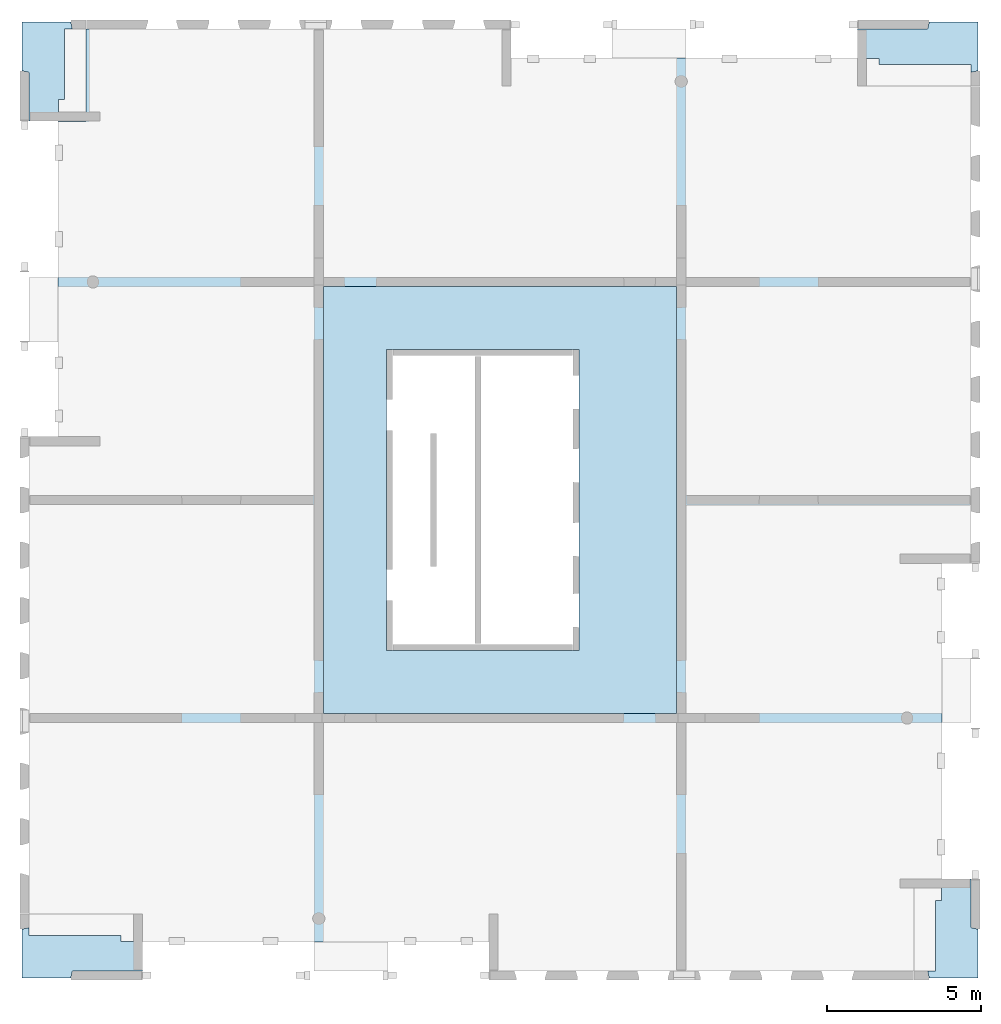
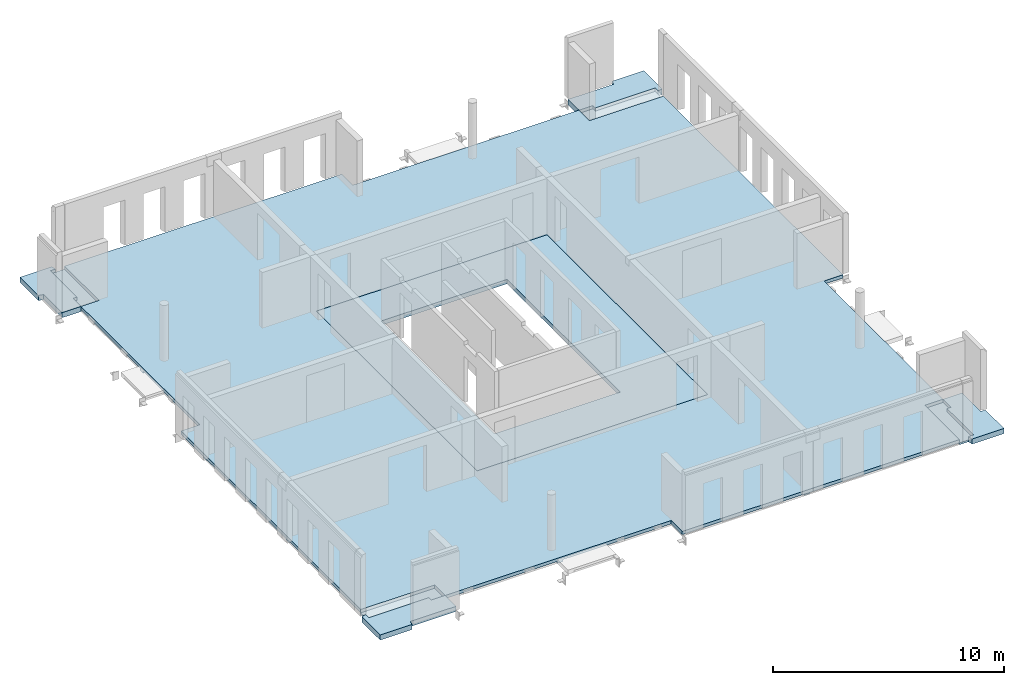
# One storey, part 6 of 6: 6 slabs.
"""IFC2X3 building model written with IfcOpenShell, lengths in millimetres."""

import ifcopenshell
import ifcopenshell.guid

model = None  # the IFC model being written
_history = None  # IfcOwnerHistory: only IFC2X3 demands one
_inside = {}  # id of a spatial element -> (the spatial element, [elements in it])
_under = {}  # id of a project, library or spatial element -> (it, [spatial elements below it])
_declared = {}  # id of a project -> (the project, [libraries it declares])
_typed = {}  # id of a type object -> (the type object, [elements of that type])
_made_of = {}  # id of a material, layer set ... -> (it, [elements and type objects made of it])


def new_model(schema):
    """Start an empty IFC model of exactly this schema.

    Asked for "IFC4X3", IfcOpenShell would pick the latest addendum, in which some entities
    have other attributes; the version numbers below select the first issue.
    IFC2X3 requires an IfcOwnerHistory on every rooted entity: one is made here for all.
    """
    global model, _history
    if schema == "IFC4X3":
        model = ifcopenshell.file(schema_version=(4, 3, 0, 0))
    else:
        model = ifcopenshell.file(schema=schema)
    _inside.clear()
    _under.clear()
    _declared.clear()
    _typed.clear()
    _made_of.clear()
    _history = None
    if model.schema == "IFC2X3":
        org = make("IfcOrganization", Name="unknown")
        user = make(
            "IfcPersonAndOrganization",
            ThePerson=make("IfcPerson", FamilyName="unknown"),
            TheOrganization=org,
        )
        app = make(
            "IfcApplication",
            ApplicationDeveloper=org,
            Version="unknown",
            ApplicationFullName="unknown",
            ApplicationIdentifier="unknown",
        )
        _history = make(
            "IfcOwnerHistory",
            OwningUser=user,
            OwningApplication=app,
            ChangeAction="ADDED",
            CreationDate=0,
        )
    return model


def make(cls, **values):
    """One entity of the class cls with the attributes given. An attribute that is None is left unset."""
    return model.create_entity(
        cls, **{name: value for name, value in values.items() if value is not None}
    )


def entity(cls, *values):
    """Any entity or typed value of the class cls, its attributes in the order of the schema. None: left unset."""
    e = model.create_entity(cls)
    for i, value in enumerate(values):
        if value is not None:
            e[i] = value
    return e


def rooted(cls, **values):
    """An entity with a GlobalId (a new one), such as an element, a storey or a relation."""
    return make(cls, GlobalId=ifcopenshell.guid.new(), OwnerHistory=_history, **values)


def si_unit(unit_type, name, prefix=None):
    """IfcSIUnit, for example si_unit("LENGTHUNIT", "METRE", prefix="MILLI")."""
    return make("IfcSIUnit", UnitType=unit_type, Prefix=prefix, Name=name)


def converted_unit(unit_type, name, factor, base, dimensions=None, offset=None):
    """IfcConversionBasedUnit, such as the inch: factor (a typed value) times the base unit."""
    return make(
        "IfcConversionBasedUnit"
        if offset is None
        else "IfcConversionBasedUnitWithOffset",
        ConversionOffset=offset,
        Dimensions=None
        if dimensions is None
        else entity("IfcDimensionalExponents", *dimensions),
        UnitType=unit_type,
        Name=name,
        ConversionFactor=make(
            "IfcMeasureWithUnit", ValueComponent=factor, UnitComponent=base
        ),
    )


def derived_unit(unit_type, elements):
    """IfcDerivedUnit: a product of units, each with its exponent."""
    return make(
        "IfcDerivedUnit",
        Elements=[
            make("IfcDerivedUnitElement", Unit=unit, Exponent=power)
            for unit, power in elements
        ],
        UnitType=unit_type,
    )


def assignment(units):
    """IfcUnitAssignment: the units of a project."""
    return None if units is None else make("IfcUnitAssignment", Units=units)


def point(xyz):
    """IfcCartesianPoint."""
    return None if xyz is None else make("IfcCartesianPoint", Coordinates=xyz)


def direction(xyz):
    """IfcDirection."""
    return None if xyz is None else make("IfcDirection", DirectionRatios=xyz)


def frame(location, z_axis=None, x_axis=None):
    """IfcAxis2Placement3D, a coordinate frame: its origin and axes. An axis left out is left unset."""
    return make(
        "IfcAxis2Placement3D",
        Location=point(location),
        Axis=direction(z_axis),
        RefDirection=direction(x_axis),
    )


def origin():
    """The frame at (0, 0, 0) with its axes left unset."""
    return frame((0.0, 0.0, 0.0))


def place(relative_to, where):
    """IfcLocalPlacement: puts the frame where relative to a parent placement (None: the world)."""
    return make(
        "IfcLocalPlacement", PlacementRelTo=relative_to, RelativePlacement=where
    )


def context(
    kind, dimensions, precision=None, world=None, true_north=None, identifier=None
):
    """IfcGeometricRepresentationContext, for example the 3D "Model" context."""
    return make(
        "IfcGeometricRepresentationContext",
        ContextIdentifier=identifier,
        ContextType=kind,
        CoordinateSpaceDimension=dimensions,
        Precision=precision,
        WorldCoordinateSystem=world,
        TrueNorth=true_north,
    )


def subcontext(parent, identifier, kind, view, scale=None):
    """IfcGeometricRepresentationSubContext, for example "Body" below "Model"."""
    return make(
        "IfcGeometricRepresentationSubContext",
        ContextIdentifier=identifier,
        ContextType=kind,
        ParentContext=parent,
        TargetScale=scale,
        TargetView=view,
    )


def project(units=None, contexts=None):
    """IfcProject with its units and contexts."""
    return rooted(
        "IfcProject",
        Name="project",
        RepresentationContexts=contexts,
        UnitsInContext=assignment(units),
    )


def spatial(cls, under=None, at=None, **own):
    """A site, building, storey or space (cls), placed at a placement, below another one or the project."""
    s = rooted(cls, ObjectPlacement=at, **own)
    if under is not None:
        _under.setdefault(under.id(), (under, []))[1].append(s)
    return s


def faces_of(points, faces, orient=None, outer=None):
    """IfcFace entities. A face is a list of loops; a loop is a list of indices into points, from 0.

    orient and outer hold one flag for each loop. By default every Orientation is true, the
    first loop of a face is its IfcFaceOuterBound and the others are IfcFaceBound.
    """
    made = []
    for i, loops in enumerate(faces):
        bounds = []
        for j, loop in enumerate(loops):
            is_outer = j == 0 if outer is None else outer[i][j]
            bounds.append(
                make(
                    "IfcFaceOuterBound" if is_outer else "IfcFaceBound",
                    Bound=make("IfcPolyLoop", Polygon=[points[k] for k in loop]),
                    Orientation=True if orient is None else orient[i][j],
                )
            )
        made.append(make("IfcFace", Bounds=bounds))
    return made


def faceted_brep(points, faces, orient=None, outer=None, voids=None):
    """IfcFacetedBrep: a solid bounded by flat faces; with voids (closed shells), ...WithVoids."""
    shared = [point(p) for p in points]
    hull = make("IfcClosedShell", CfsFaces=faces_of(shared, faces, orient, outer))
    if voids is None:
        return make("IfcFacetedBrep", Outer=hull)
    return make(
        "IfcFacetedBrepWithVoids",
        Outer=hull,
        Voids=[
            make(cls, CfsFaces=faces_of(shared, fs, o, b)) for cls, fs, o, b in voids
        ],
    )


def shape(context_of_items, identifier, shape_type, items):
    """IfcShapeRepresentation: the items that make up one representation, for example the "Body"."""
    return make(
        "IfcShapeRepresentation",
        ContextOfItems=context_of_items,
        RepresentationIdentifier=identifier,
        RepresentationType=shape_type,
        Items=items,
    )


def material(Name=None, Category=None):
    """IfcMaterial."""
    return make("IfcMaterial", Name=Name, Category=Category)


def made_of(thing, what):
    """Note that an element or type object is made of a material, layer set ...; save() writes the relation."""
    if what is not None:
        _made_of.setdefault(what.id(), (what, []))[1].append(thing)
    return thing


def element(
    cls,
    number,
    at=None,
    inside=None,
    cuts=None,
    type_object=None,
    material=None,
    context=None,
    identifier="Body",
    shape_type=None,
    held_by="IfcProductDefinitionShape",
    body=None,
    shapes=None,
    **own,
):
    """One element of the class cls, such as IfcWall. Its Tag is "e" and its number.

    at: its placement. inside: the storey or other place that contains it. cuts: it is an
    opening in that element (IfcRelVoidsElement). A single representation is given by context,
    identifier, shape_type and body (its items); several are given by shapes. held_by: the class
    of the entity that holds the representations. save() writes the other relations.
    """
    e = rooted(cls, Tag="e%d" % number, ObjectPlacement=at, **own)
    if body is not None:
        shapes = [shape(context, identifier, shape_type, body)]
    if shapes is not None:
        e.Representation = make(held_by, Representations=shapes)
    if inside is not None:
        _inside.setdefault(inside.id(), (inside, []))[1].append(e)
    if cuts is not None:
        rooted(
            "IfcRelVoidsElement", RelatingBuildingElement=cuts, RelatedOpeningElement=e
        )
    if type_object is not None:
        _typed.setdefault(type_object.id(), (type_object, []))[1].append(e)
    return made_of(e, material)


def aggregate(whole, parts):
    """IfcRelAggregates: a whole, such as a stair, and the parts it consists of."""
    return rooted("IfcRelAggregates", RelatingObject=whole, RelatedObjects=parts)


def save(model, path):
    """Write the relations noted so far, then the file.

    IfcRelAggregates (storeys below a building ...), IfcRelContainedInSpatialStructure (elements
    in a storey), IfcRelDefinesByType, IfcRelAssociatesMaterial and IfcRelDeclares: one each for
    every whole, place, type object, material and project.
    """
    for whole, parts in _under.values():
        aggregate(whole, parts)
    for where, things in _inside.values():
        rooted(
            "IfcRelContainedInSpatialStructure",
            RelatedElements=things,
            RelatingStructure=where,
        )
    for kind, things in _typed.values():
        rooted("IfcRelDefinesByType", RelatedObjects=things, RelatingType=kind)
    for what, things in _made_of.values():
        rooted("IfcRelAssociatesMaterial", RelatedObjects=things, RelatingMaterial=what)
    for by, libraries in _declared.values():
        rooted("IfcRelDeclares", RelatingContext=by, RelatedDefinitions=libraries)
    model.write(path)


model = new_model("IFC2X3")

# Units and contexts
model_context = context("Model", 3, precision=0.01, world=origin(), true_north=direction((6.12303176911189e-17, 1.0)))
body_context = subcontext(model_context, "Body", "Model", "MODEL_VIEW")
ifc_project = project(units=[si_unit("LENGTHUNIT", "METRE", prefix="MILLI"), si_unit("AREAUNIT", "SQUARE_METRE"), si_unit("VOLUMEUNIT", "CUBIC_METRE"), converted_unit("PLANEANGLEUNIT", "DEGREE", entity("IfcRatioMeasure", 0.0174532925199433), si_unit("PLANEANGLEUNIT", "RADIAN"), dimensions=[0, 0, 0, 0, 0, 0, 0]), si_unit("MASSUNIT", "GRAM", prefix="KILO"), derived_unit("MASSDENSITYUNIT", [(si_unit("MASSUNIT", "GRAM", prefix="KILO"), 1), (si_unit("LENGTHUNIT", "METRE"), -3)]), si_unit("TIMEUNIT", "SECOND"), si_unit("FREQUENCYUNIT", "HERTZ"), si_unit("THERMODYNAMICTEMPERATUREUNIT", "DEGREE_CELSIUS"), derived_unit("THERMALTRANSMITTANCEUNIT", [(si_unit("MASSUNIT", "GRAM", prefix="KILO"), 1), (si_unit("THERMODYNAMICTEMPERATUREUNIT", "KELVIN"), -1), (si_unit("TIMEUNIT", "SECOND"), -3)]), derived_unit("VOLUMETRICFLOWRATEUNIT", [(si_unit("LENGTHUNIT", "METRE"), 3), (si_unit("TIMEUNIT", "SECOND"), -1)]), si_unit("ELECTRICCURRENTUNIT", "AMPERE"), si_unit("ELECTRICVOLTAGEUNIT", "VOLT"), si_unit("POWERUNIT", "WATT"), si_unit("FORCEUNIT", "NEWTON", prefix="KILO"), si_unit("ILLUMINANCEUNIT", "LUX"), si_unit("LUMINOUSFLUXUNIT", "LUMEN"), si_unit("LUMINOUSINTENSITYUNIT", "CANDELA"), derived_unit("USERDEFINED", [(si_unit("MASSUNIT", "GRAM", prefix="KILO"), -1), (si_unit("LENGTHUNIT", "METRE"), -2), (si_unit("TIMEUNIT", "SECOND"), 3), (si_unit("LUMINOUSFLUXUNIT", "LUMEN"), 1)]), derived_unit("LINEARVELOCITYUNIT", [(si_unit("LENGTHUNIT", "METRE"), 1), (si_unit("TIMEUNIT", "SECOND"), -1)]), si_unit("PRESSUREUNIT", "PASCAL"), derived_unit("USERDEFINED", [(si_unit("LENGTHUNIT", "METRE"), -2), (si_unit("MASSUNIT", "GRAM", prefix="KILO"), 1), (si_unit("TIMEUNIT", "SECOND"), -2)])], contexts=[model_context])

# Site, building, storey
site_placement = place(None, origin())
site = spatial("IfcSite", under=ifc_project, at=site_placement, Name="Default", CompositionType="ELEMENT")
building_placement = place(site_placement, origin())
building = spatial("IfcBuilding", under=site, at=building_placement, Name="niet gebruiken", CompositionType="ELEMENT")
storey_placement = place(building_placement, frame((0.0, 0.0, 161820.0)))
storey = spatial("IfcBuildingStorey", under=building, at=storey_placement, Name="52 tweeënvijftigste verdieping", CompositionType="ELEMENT", Elevation=161820.0)

# Slabs
slab_1_placement = place(storey_placement, origin())
element("IfcSlab", 1, at=slab_1_placement, inside=storey, Name="Floor:NLRS_23.22_FL_beton prefab d=270 3D element_gen", ObjectType="Floor:NLRS_23.22_FL_beton prefab d=270 3D element_gen", PredefinedType="LANDING", context=body_context, shape_type="Brep", body=[
    faceted_brep([(126420.0, 29840.0, -360.0), (126420.0, 31425.376175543, -360.0), (126187.0, 31472.8526645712, -360.0), (126187.0, 33063.0, -360.0), (127777.147335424, 33063.0, -360.0), (127824.623824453, 32830.0, -360.0), (128270.0, 32830.0, -360.0), (128270.0, 29840.0, -360.0), (126420.0, 31425.376175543, -90.0), (126420.0, 29840.0, -90.0), (127370.0, 29840.0, -90.0), (127370.0, 30540.0, -90.0), (127570.0, 30540.0, -90.0), (127570.0, 32830.0, -90.0), (127824.623824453, 32830.0, -90.0), (127777.147335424, 33063.0, -90.0), (126187.0, 33063.0, -90.0), (126187.0, 31472.8526645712, -90.0), (127824.623824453, 32830.0, -260.0), (128270.0, 32830.0, -260.0), (128270.0, 29840.0, -260.0), (127370.0, 29840.0, -260.0), (127370.0, 30540.0, -260.0), (127570.0, 32830.0, -260.0), (127570.0, 30540.0, -260.0)], [[[0, 1, 2, 3, 4, 5, 6, 7]], [[8, 9, 10, 11, 12, 13, 14, 15, 16, 17]], [[1, 0, 9, 8]], [[2, 1, 8, 17]], [[3, 2, 17, 16]], [[4, 3, 16, 15]], [[5, 4, 15, 14, 18]], [[6, 5, 18, 19]], [[7, 6, 19, 20]], [[0, 7, 20, 21, 10, 9]], [[22, 21, 20, 19, 18, 23, 24]], [[13, 23, 18, 14]], [[21, 22, 11, 10]], [[22, 24, 12, 11]], [[24, 23, 13, 12]]]),
])
slab_2_placement = place(storey_placement, origin())
element("IfcSlab", 2, at=slab_2_placement, inside=storey, Name="Floor:NLRS_23.22_FL_beton prefab d=270 3D element_gen", ObjectType="Floor:NLRS_23.22_FL_beton prefab d=270 3D element_gen", PredefinedType="LANDING", context=body_context, shape_type="Brep", body=[
    faceted_brep([(157080.0, 5160.0, -360.0), (157080.0, 3574.62382445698, -360.0), (157313.0, 3527.14733542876, -360.0), (157313.0, 1937.0, -360.0), (155722.852664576, 1937.0, -360.0), (155675.376175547, 2170.0, -360.0), (155230.0, 2170.0, -360.0), (155230.0, 5160.0, -360.0), (157080.0, 3574.62382445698, -90.0), (157080.0, 5160.0, -90.0), (156130.0, 5160.0, -90.0), (156130.0, 4460.0, -90.0), (155930.0, 4460.0, -90.0), (155930.0, 2170.0, -90.0), (155675.376175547, 2170.0, -90.0), (155722.852664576, 1937.0, -90.0), (157313.0, 1937.0, -90.0), (157313.0, 3527.14733542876, -90.0), (155675.376175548, 2170.0, -260.0), (155230.0, 2170.0, -260.0), (155230.0, 5160.0, -260.0), (156130.0, 5160.0, -260.0), (156130.0, 4460.0, -260.0), (155930.0, 2170.0, -260.0), (155930.0, 4460.0, -260.0)], [[[0, 1, 2, 3, 4, 5, 6, 7]], [[8, 9, 10, 11, 12, 13, 14, 15, 16, 17]], [[1, 0, 9, 8]], [[2, 1, 8, 17]], [[3, 2, 17, 16]], [[4, 3, 16, 15]], [[5, 4, 15, 14, 18]], [[6, 5, 18, 19]], [[7, 6, 19, 20]], [[0, 7, 20, 21, 10, 9]], [[22, 21, 20, 19, 18, 23, 24]], [[13, 23, 18, 14]], [[21, 22, 11, 10]], [[22, 24, 12, 11]], [[24, 23, 13, 12]]]),
])
slab_3_placement = place(storey_placement, origin())
element("IfcSlab", 3, at=slab_3_placement, inside=storey, Name="Floor:NLRS_23.22_FL_beton prefab d=270 3D element_gen", ObjectType="Floor:NLRS_23.22_FL_beton prefab d=270 3D element_gen", PredefinedType="LANDING", context=body_context, shape_type="Brep", body=[
    faceted_brep([(126420.0, 4020.0, -360.0), (130110.0, 4020.0, -360.0), (130110.0, 2170.0, -360.0), (127824.62382445, 2170.0, -360.0), (127777.147335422, 1937.0, -360.0), (126187.0, 1937.0, -360.0), (126187.0, 3527.14733543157, -360.0), (126420.0, 3574.62382445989, -360.0), (127824.62382445, 2170.0, -90.0), (130110.0, 2170.0, -90.0), (130110.0, 3120.0, -90.0), (129410.0, 3120.0, -90.0), (129410.0, 3320.0, -90.0), (126420.0, 3320.0, -90.0), (126420.0, 3574.62382445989, -90.0), (126187.0, 3527.14733543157, -90.0), (126187.0, 1937.0, -90.0), (127777.147335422, 1937.0, -90.0), (126420.0, 4020.0, -260.0), (130110.0, 4020.0, -260.0), (130110.0, 3120.0, -260.0), (126420.0, 3574.62382446, -260.0), (129410.0, 3120.0, -260.0), (126420.0, 3320.0, -260.0), (129410.0, 3320.0, -260.0)], [[[0, 1, 2, 3, 4, 5, 6, 7]], [[8, 9, 10, 11, 12, 13, 14, 15, 16, 17]], [[1, 0, 18, 19]], [[2, 1, 19, 20, 10, 9]], [[3, 2, 9, 8]], [[4, 3, 8, 17]], [[5, 4, 17, 16]], [[6, 5, 16, 15]], [[7, 6, 15, 14, 21]], [[0, 7, 21, 18]], [[22, 20, 19, 18, 21, 23, 24]], [[20, 22, 11, 10]], [[22, 24, 12, 11]], [[24, 23, 13, 12]], [[13, 23, 21, 14]]]),
])
slab_4_placement = place(storey_placement, origin())
element("IfcSlab", 4, at=slab_4_placement, inside=storey, Name="Floor:NLRS_23.22_FL_beton prefab d=270 3D element_gen", ObjectType="Floor:NLRS_23.22_FL_beton prefab d=270 3D element_gen", PredefinedType="LANDING", context=body_context, shape_type="Brep", body=[
    faceted_brep([(157080.0, 30980.0, -360.0), (153390.0, 30980.0, -360.0), (153390.0, 32830.0, -360.0), (155675.376175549, 32830.0, -360.0), (155722.852664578, 33063.0, -360.0), (157313.0, 33063.0, -360.0), (157313.0, 31472.8526645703, -360.0), (157080.0, 31425.376175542, -360.0), (155675.376175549, 32830.0, -90.0), (153390.0, 32830.0, -90.0), (153390.0, 31880.0, -90.0), (154090.0, 31880.0, -90.0), (154090.0, 31680.0, -90.0), (157080.0, 31680.0, -90.0), (157080.0, 31425.376175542, -90.0), (157313.0, 31472.8526645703, -90.0), (157313.0, 33063.0, -90.0), (155722.852664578, 33063.0, -90.0), (157080.0, 30980.0, -260.0), (153390.0, 30980.0, -260.0), (153390.0, 31880.0, -260.0), (157080.0, 31425.3761755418, -260.0), (154090.0, 31880.0, -260.0), (157080.0, 31680.0, -260.0), (154090.0, 31680.0, -260.0)], [[[0, 1, 2, 3, 4, 5, 6, 7]], [[8, 9, 10, 11, 12, 13, 14, 15, 16, 17]], [[1, 0, 18, 19]], [[2, 1, 19, 20, 10, 9]], [[3, 2, 9, 8]], [[4, 3, 8, 17]], [[5, 4, 17, 16]], [[6, 5, 16, 15]], [[7, 6, 15, 14, 21]], [[0, 7, 21, 18]], [[22, 20, 19, 18, 21, 23, 24]], [[20, 22, 11, 10]], [[22, 24, 12, 11]], [[24, 23, 13, 12]], [[13, 23, 21, 14]]]),
])
slab_5_placement = place(storey_placement, origin())
element("IfcSlab", 5, at=slab_5_placement, inside=storey, Name="Floor:NLRS_23.21_FL_vloer=230_gen", ObjectType="Floor:NLRS_23.21_FL_vloer=230_gen", PredefinedType="FLOOR", context=body_context, shape_type="Brep", body=[
    faceted_brep([(144330.0, 22400.0, -320.0), (138050.0, 22400.0, -320.0), (138050.0, 12600.0, -320.0), (144330.0, 12600.0, -320.0), (138040.0, 22410.0, -320.0), (144340.0, 22410.0, -320.0), (144340.0, 12590.0, -320.0), (138040.0, 12590.0, -320.0), (138050.0, 22400.0, -90.0), (144330.0, 22400.0, -90.0), (144330.0, 12600.0, -90.0), (138050.0, 12600.0, -90.0), (147500.0, 10550.0, -90.0), (147500.0, 24450.0, -90.0), (136000.0, 24450.0, -90.0), (136000.0, 10550.0, -90.0), (147500.0, 10550.0, -260.0), (147500.0, 24450.0, -260.0), (136000.0, 10550.0, -260.0), (136000.0, 24450.0, -260.0), (144340.0, 12590.0, -260.0), (144340.0, 22410.0, -260.0), (138040.0, 22410.0, -260.0), (138040.0, 12590.0, -260.0)], [[[0, 1, 2, 3], [4, 5, 6, 7]], [[8, 9, 10, 11], [12, 13, 14, 15]], [[13, 12, 16, 17]], [[12, 15, 18, 16]], [[15, 14, 19, 18]], [[14, 13, 17, 19]], [[1, 0, 9, 8]], [[2, 1, 8, 11]], [[3, 2, 11, 10]], [[0, 3, 10, 9]], [[20, 21, 22, 23], [17, 16, 18, 19]], [[22, 21, 5, 4]], [[23, 22, 4, 7]], [[20, 23, 7, 6]], [[21, 20, 6, 5]]], outer=[[False, True], [False, True], [True], [True], [True], [True], [True], [True], [True], [True], [False, True], [True], [True], [True], [True]]),
])
ifc_material = material(Name="NLRS_f2_beton ihwg")
slab_6_placement = place(storey_placement, origin())
element("IfcSlab", 6, at=slab_6_placement, inside=storey, material=ifc_material, Name="Floor:NLRS_23.21_FL_vloer d=270_gen", ObjectType="Floor:NLRS_23.21_FL_vloer d=270_gen", PredefinedType="FLOOR", context=body_context, shape_type="Brep", body=[
    faceted_brep([(147500.0, 24450.0, -360.0), (136000.0, 24450.0, -360.0), (136000.0, 10550.0, -360.0), (147500.0, 10550.0, -360.0), (135710.0, 3115.0, -360.0), (135710.0, 10260.0, -360.0), (126450.0, 10260.0, -360.0), (126450.0, 10540.0, -360.0), (135710.0, 10540.0, -360.0), (135710.0, 17360.0, -360.0), (126450.0, 17360.0, -360.0), (126450.0, 17640.0, -360.0), (135710.0, 17640.0, -360.0), (135710.0, 24460.0, -360.0), (127365.0, 24460.0, -360.0), (127365.0, 24740.0, -360.0), (135710.0, 24740.0, -360.0), (135710.0, 32800.0, -360.0), (135990.0, 32800.0, -360.0), (135990.0, 24740.0, -360.0), (147510.0, 24740.0, -360.0), (147510.0, 31885.0, -360.0), (147790.0, 31885.0, -360.0), (147790.0, 24740.0, -360.0), (157050.0, 24740.0, -360.0), (157050.0, 24460.0, -360.0), (147790.0, 24460.0, -360.0), (147790.0, 17640.0, -360.0), (157050.0, 17640.0, -360.0), (157050.0, 17340.0, -360.0), (147790.0, 17340.0, -360.0), (147790.0, 10540.0, -360.0), (156135.0, 10540.0, -360.0), (156135.0, 10260.0, -360.0), (147790.0, 10260.0, -360.0), (147790.0, 2200.0, -360.0), (147510.0, 2200.0, -360.0), (147510.0, 10260.0, -360.0), (135990.0, 10260.0, -360.0), (135990.0, 3115.0, -360.0), (142110.0, 31885.0, -90.0), (142110.0, 32830.0, -90.0), (128270.0, 32830.0, -90.0), (128270.0, 29840.0, -90.0), (127370.0, 29840.0, -90.0), (127365.0, 29840.0, -90.0), (127365.0, 19560.0, -90.0), (126420.0, 19560.0, -90.0), (126420.0, 4020.0, -90.0), (130110.0, 4020.0, -90.0), (130110.0, 3120.0, -90.0), (130110.0, 3115.0, -90.0), (141390.0, 3115.0, -90.0), (141390.0, 2170.0, -90.0), (155230.0, 2170.0, -90.0), (155230.0, 5160.0, -90.0), (156130.0, 5160.0, -90.0), (156135.0, 5160.0, -90.0), (156135.0, 15440.0, -90.0), (157080.0, 15440.0, -90.0), (157080.0, 30980.0, -90.0), (153390.0, 30980.0, -90.0), (153390.0, 31880.0, -90.0), (153390.0, 31885.0, -90.0), (136000.0, 24450.0, -90.0), (147500.0, 24450.0, -90.0), (147500.0, 10550.0, -90.0), (136000.0, 10550.0, -90.0), (147500.0, 24450.0, -320.0), (136000.0, 24450.0, -320.0), (136000.0, 10550.0, -320.0), (147500.0, 10550.0, -320.0), (142110.0, 31885.0, -260.0), (142110.0, 32830.0, -260.0), (153390.0, 31885.0, -260.0), (147800.0, 31885.0, -260.0), (147790.0, 31885.0, -260.0), (147510.0, 31885.0, -260.0), (145390.0, 31885.0, -260.0), (153390.0, 30980.0, -260.0), (153390.0, 31880.0, -260.0), (157080.0, 30980.0, -260.0), (157080.0, 15440.0, -260.0), (156135.0, 15440.0, -260.0), (156135.0, 5160.0, -260.0), (156135.0, 10250.0, -260.0), (156135.0, 10260.0, -260.0), (156135.0, 10540.0, -260.0), (156135.0, 12360.0, -260.0), (155230.0, 5160.0, -260.0), (156130.0, 5160.0, -260.0), (155230.0, 2170.0, -260.0), (141390.0, 2170.0, -260.0), (141390.0, 3115.0, -260.0), (130110.0, 3115.0, -260.0), (135700.0, 3115.0, -260.0), (135710.0, 3115.0, -260.0), (135990.0, 3115.0, -260.0), (138110.0, 3115.0, -260.0), (130110.0, 4020.0, -260.0), (130110.0, 3120.0, -260.0), (126420.0, 4020.0, -260.0), (126420.0, 19560.0, -260.0), (127365.0, 19560.0, -260.0), (127365.0, 29840.0, -360.0), (127365.0, 29830.0, -360.0), (127365.0, 29830.0, -260.0), (127365.0, 24750.0, -260.0), (127365.0, 24740.0, -260.0), (127365.0, 24460.0, -260.0), (127365.0, 22640.0, -260.0), (128270.0, 29840.0, -360.0), (128270.0, 29840.0, -260.0), (128270.0, 32830.0, -360.0), (128270.0, 32830.0, -260.0), (128370.0, 32830.0, -260.0), (128370.0, 32830.0, -360.0), (147510.0, 10540.0, -320.0), (147510.0, 24460.0, -320.0), (135990.0, 24460.0, -320.0), (135990.0, 10540.0, -320.0), (135990.0, 24460.0, -260.0), (147510.0, 24460.0, -260.0), (147510.0, 10540.0, -260.0), (135990.0, 10540.0, -260.0), (147500.0, 24450.0, -260.0), (136000.0, 24450.0, -260.0), (136000.0, 10550.0, -260.0), (147500.0, 10550.0, -260.0), (128370.0, 29830.0, -260.0), (147510.0, 24740.0, -260.0), (135990.0, 24740.0, -260.0), (135990.0, 32800.0, -260.0), (135710.0, 32800.0, -260.0), (135710.0, 24740.0, -260.0), (135710.0, 10260.0, -260.0), (147510.0, 10260.0, -260.0), (135990.0, 10260.0, -260.0), (147790.0, 24740.0, -260.0), (128370.0, 29830.0, -360.0), (147510.0, 2200.0, -260.0), (147790.0, 2200.0, -260.0), (147790.0, 10260.0, -260.0), (147790.0, 10540.0, -260.0), (147790.0, 17340.0, -260.0), (157050.0, 17340.0, -260.0), (157050.0, 17640.0, -260.0), (147790.0, 17640.0, -260.0), (147790.0, 24460.0, -260.0), (157050.0, 24460.0, -260.0), (157050.0, 24740.0, -260.0), (135710.0, 24460.0, -260.0), (135710.0, 17640.0, -260.0), (126450.0, 17640.0, -260.0), (126450.0, 17360.0, -260.0), (135710.0, 17360.0, -260.0), (135710.0, 10540.0, -260.0), (126450.0, 10540.0, -260.0), (126450.0, 10260.0, -260.0)], [[[0, 1, 2, 3], [4, 5, 6, 7, 8, 9, 10, 11, 12, 13, 14, 15, 16, 17, 18, 19, 20, 21, 22, 23, 24, 25, 26, 27, 28, 29, 30, 31, 32, 33, 34, 35, 36, 37, 38, 39]], [[40, 41, 42, 43, 44, 45, 46, 47, 48, 49, 50, 51, 52, 53, 54, 55, 56, 57, 58, 59, 60, 61, 62, 63], [64, 65, 66, 67]], [[1, 0, 68, 69]], [[2, 1, 69, 70]], [[3, 2, 70, 71]], [[0, 3, 71, 68]], [[41, 40, 72, 73]], [[40, 63, 74, 75, 76, 22, 21, 77, 78, 72]], [[63, 62, 61, 79, 80, 74]], [[61, 60, 81, 79]], [[60, 59, 82, 81]], [[59, 58, 83, 82]], [[58, 57, 84, 85, 86, 33, 32, 87, 88, 83]], [[57, 56, 55, 89, 90, 84]], [[55, 54, 91, 89]], [[54, 53, 92, 91]], [[53, 52, 93, 92]], [[52, 51, 94, 95, 96, 4, 39, 97, 98, 93]], [[51, 50, 49, 99, 100, 94]], [[49, 48, 101, 99]], [[48, 47, 102, 101]], [[47, 46, 103, 102]], [[46, 45, 104, 105, 106, 107, 108, 15, 14, 109, 110, 103]], [[111, 104, 45, 44, 43, 112]], [[113, 111, 112, 43, 42, 114]], [[42, 41, 73, 115, 116, 113, 114]], [[69, 68, 71, 70], [117, 118, 119, 120]], [[121, 122, 123, 124], [125, 126, 127, 128]], [[118, 117, 123, 122]], [[117, 120, 124, 123]], [[120, 119, 121, 124]], [[119, 118, 122, 121]], [[129, 115, 73, 72, 78, 77, 130, 131, 132, 133, 134, 108, 107, 106]], [[96, 135, 5, 4]], [[136, 137, 38, 37]], [[76, 138, 23, 22]], [[131, 130, 20, 19]], [[129, 106, 105, 139]], [[115, 129, 139, 116]], [[38, 137, 97, 39]], [[140, 136, 37, 36]], [[141, 140, 36, 35]], [[142, 141, 35, 34]], [[86, 142, 34, 33]], [[31, 143, 87, 32]], [[144, 143, 31, 30]], [[145, 144, 30, 29]], [[146, 145, 29, 28]], [[147, 146, 28, 27]], [[148, 147, 27, 26]], [[149, 148, 26, 25]], [[150, 149, 25, 24]], [[138, 150, 24, 23]], [[132, 131, 19, 18]], [[133, 132, 18, 17]], [[134, 133, 17, 16]], [[108, 134, 16, 15]], [[13, 151, 109, 14]], [[152, 151, 13, 12]], [[153, 152, 12, 11]], [[154, 153, 11, 10]], [[155, 154, 10, 9]], [[156, 155, 9, 8]], [[157, 156, 8, 7]], [[158, 157, 7, 6]], [[135, 158, 6, 5]], [[20, 130, 77, 21]], [[138, 76, 75, 74, 80, 79, 81, 82, 83, 88, 87, 143, 144, 145, 146, 147, 148, 149, 150]], [[158, 135, 96, 95, 94, 100, 99, 101, 102, 103, 110, 109, 151, 152, 153, 154, 155, 156, 157]], [[142, 86, 85, 84, 90, 89, 91, 92, 93, 98, 97, 137, 136, 140, 141]], [[66, 65, 125, 128]], [[67, 66, 128, 127]], [[64, 67, 127, 126]], [[65, 64, 126, 125]], [[104, 111, 113, 116, 139, 105]]], outer=[[False, True], [True, False], [True], [True], [True], [True], [True], [True], [True], [True], [True], [True], [True], [True], [True], [True], [True], [True], [True], [True], [True], [True], [True], [True], [True], [True], [False, True], [True, False], [True], [True], [True], [True], [True], [True], [True], [True], [True], [True], [True], [True], [True], [True], [True], [True], [True], [True], [True], [True], [True], [True], [True], [True], [True], [True], [True], [True], [True], [True], [True], [True], [True], [True], [True], [True], [True], [True], [True], [True], [True], [True], [True], [True], [True], [True], [True]]),
])

save(model, "model.ifc")
